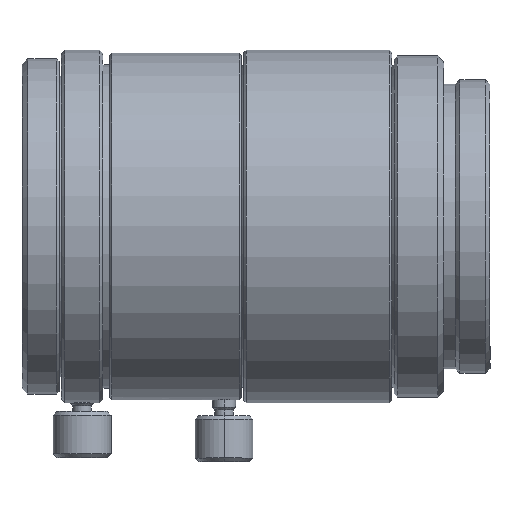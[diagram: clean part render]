
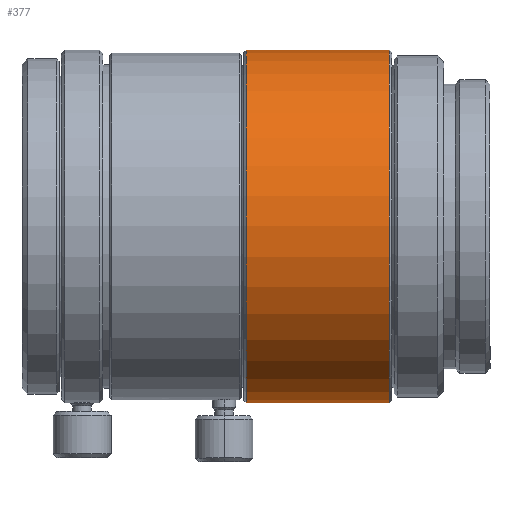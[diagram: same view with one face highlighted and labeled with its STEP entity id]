
A CAD part, top view. The second image highlights one B-rep face of the part: STEP entity #377.
In plain terms, the highlighted cylindrical face has radius 15.25 mm (diameter 30.5 mm), a partial arc.
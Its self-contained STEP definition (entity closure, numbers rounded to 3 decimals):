
#38 = DIRECTION ( 'NONE',  ( 0., -1., 0. ) ) ;
#48 = DIRECTION ( 'NONE',  ( -1., 0., 0. ) ) ;
#79 = CARTESIAN_POINT ( 'NONE',  ( -56.5, 0., 0. ) ) ;
#190 = CARTESIAN_POINT ( 'NONE',  ( -22.226, 0., 0. ) ) ;
#271 = DIRECTION ( 'NONE',  ( -1., 0., 0. ) ) ;
#310 = CARTESIAN_POINT ( 'NONE',  ( -22.226, 15.25, 0. ) ) ;
#377 = ADVANCED_FACE ( 'NONE', ( #574 ), #3401, .T. ) ;
#418 = VECTOR ( 'NONE', #842, 1000. ) ;
#502 = CIRCLE ( 'NONE', #2705, 15.25 ) ;
#536 = VERTEX_POINT ( 'NONE', #3434 ) ;
#574 = FACE_OUTER_BOUND ( 'NONE', #693, .T. ) ;
#693 = EDGE_LOOP ( 'NONE', ( #3282, #1882, #2616, #3381 ) ) ;
#842 = DIRECTION ( 'NONE',  ( -1., 0., 0. ) ) ;
#850 = EDGE_CURVE ( 'NONE', #2713, #944, #502, .T. ) ;
#944 = VERTEX_POINT ( 'NONE', #310 ) ;
#992 = LINE ( 'NONE', #1408, #1665 ) ;
#1085 = VERTEX_POINT ( 'NONE', #2046 ) ;
#1117 = DIRECTION ( 'NONE',  ( -1., 0., 0. ) ) ;
#1120 = CARTESIAN_POINT ( 'NONE',  ( -56.5, 15.25, 0. ) ) ;
#1284 = CARTESIAN_POINT ( 'NONE',  ( -22.226, -15.25, 0. ) ) ;
#1328 = DIRECTION ( 'NONE',  ( 0., -1., 0. ) ) ;
#1383 = CIRCLE ( 'NONE', #1556, 15.25 ) ;
#1408 = CARTESIAN_POINT ( 'NONE',  ( -56.5, -15.25, 0. ) ) ;
#1555 = EDGE_CURVE ( 'NONE', #1085, #536, #1383, .T. ) ;
#1556 = AXIS2_PLACEMENT_3D ( 'NONE', #2054, #271, #1328 ) ;
#1628 = EDGE_CURVE ( 'NONE', #944, #536, #2570, .T. ) ;
#1665 = VECTOR ( 'NONE', #1117, 1000. ) ;
#1699 = EDGE_CURVE ( 'NONE', #2713, #1085, #992, .T. ) ;
#1882 = ORIENTED_EDGE ( 'NONE', *, *, #1628, .T. ) ;
#2046 = CARTESIAN_POINT ( 'NONE',  ( -34.626, -15.25, 0. ) ) ;
#2054 = CARTESIAN_POINT ( 'NONE',  ( -34.626, 0., 0. ) ) ;
#2298 = DIRECTION ( 'NONE',  ( 0., -1., 0. ) ) ;
#2314 = DIRECTION ( 'NONE',  ( -1., 0., 0. ) ) ;
#2570 = LINE ( 'NONE', #1120, #418 ) ;
#2616 = ORIENTED_EDGE ( 'NONE', *, *, #1555, .F. ) ;
#2705 = AXIS2_PLACEMENT_3D ( 'NONE', #190, #48, #38 ) ;
#2713 = VERTEX_POINT ( 'NONE', #1284 ) ;
#3282 = ORIENTED_EDGE ( 'NONE', *, *, #850, .T. ) ;
#3381 = ORIENTED_EDGE ( 'NONE', *, *, #1699, .F. ) ;
#3401 = CYLINDRICAL_SURFACE ( 'NONE', #3577, 15.25 ) ;
#3434 = CARTESIAN_POINT ( 'NONE',  ( -34.626, 15.25, 0. ) ) ;
#3577 = AXIS2_PLACEMENT_3D ( 'NONE', #79, #2314, #2298 ) ;
